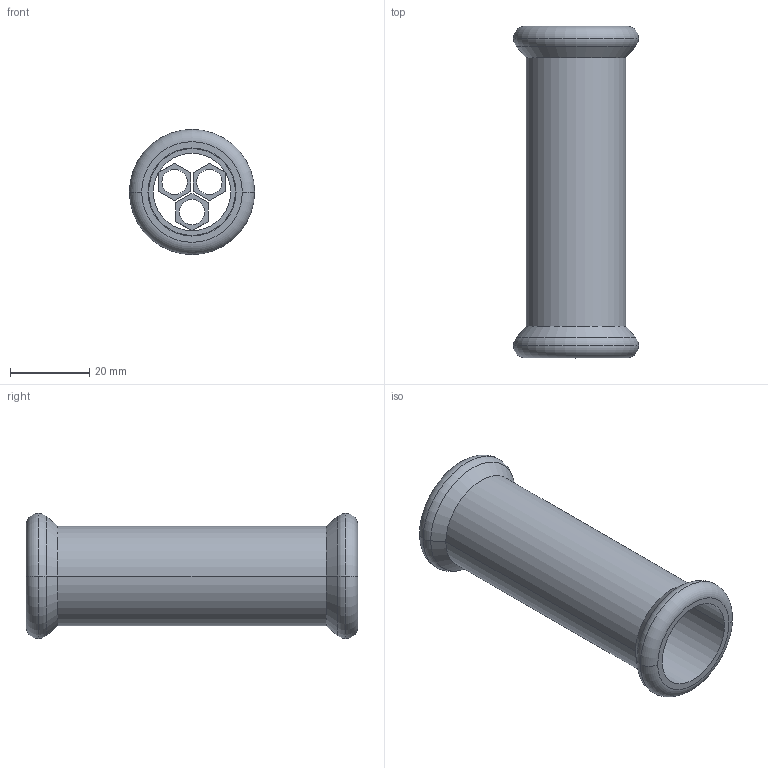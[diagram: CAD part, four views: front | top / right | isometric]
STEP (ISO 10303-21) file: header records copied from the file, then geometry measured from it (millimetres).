
FILE_DESCRIPTION(('OneSpaceDesigner STEP Export'),'2;1');
FILE_NAME('R2703 22x22.stp','2010-06-09T 9:03:24',(''),(''),'OneSpace Designer STEP processor for AP214 (Solid Model)','OneSpace Modeling 15.00A 14-Mar-2007 (C) CoCreate Software GmbH','');
FILE_SCHEMA(('AUTOMOTIVE_DESIGN { 1 0 10303 214 1 1 1 1 }'));
Length unit declared in the file: millimetre
Products named in the file (2): R2703_22x22
Assembly tree (1 placements, depth 2):
  R2703_22x22
    R2703_22x22
Bounding box: 31.7 x 84 x 31.7 mm (x, y, z)
Volume: 16508.7 mm3; surface area: 14374.8 mm2
Topology: 1 solids, 1 shells, 102 faces, 258 edges, 168 vertices
Faces by surface type: plane 60, cylinder 30, torus 8, cone 4
Entity records: 2831 total; most frequent: ORIENTED_EDGE 516, CARTESIAN_POINT 466, DIRECTION 430, EDGE_CURVE 258, VERTEX_POINT 168, VECTOR 166, LINE 166, AXIS2_PLACEMENT_3D 132
